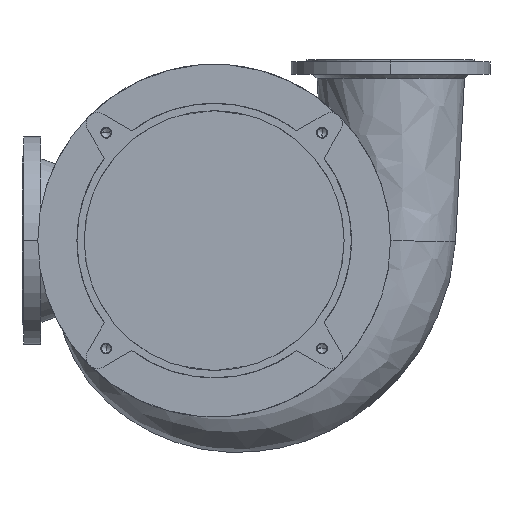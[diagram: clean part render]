
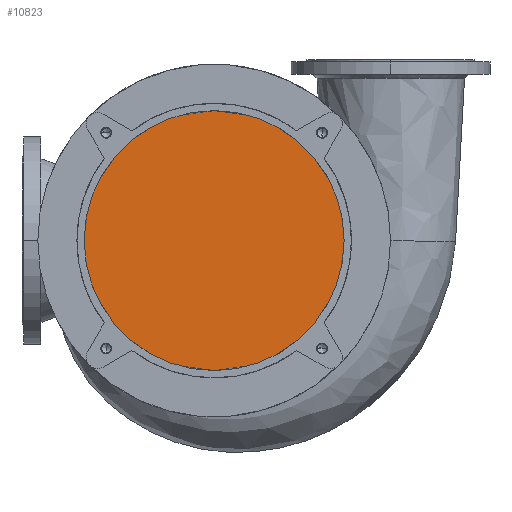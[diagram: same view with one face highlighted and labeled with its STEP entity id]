
A CAD part, front view. The second image highlights one B-rep face of the part: STEP entity #10823.
In plain terms, the highlighted planar face has unit normal (0, -1, 0).
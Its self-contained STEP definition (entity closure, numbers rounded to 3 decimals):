
#4312=CARTESIAN_POINT('',(0.,0.,0.));
#4313=DIRECTION('',(0.,-1.,0.));
#4314=DIRECTION('',(0.,0.,1.));
#4315=AXIS2_PLACEMENT_3D('',#4312,#4313,#4314);
#4317=CARTESIAN_POINT('',(0.,0.,0.));
#4318=DIRECTION('',(0.,-1.,0.));
#4319=DIRECTION('',(0.,0.,-1.));
#4320=AXIS2_PLACEMENT_3D('',#4317,#4318,#4319);
#10640=CARTESIAN_POINT('',(0.,0.,287.5));
#10641=CARTESIAN_POINT('',(0.,0.,-287.5));
#10642=VERTEX_POINT('',#10640);
#10643=VERTEX_POINT('',#10641);
#10812=CARTESIAN_POINT('',(0.,0.,0.));
#10813=DIRECTION('',(0.,1.,0.));
#10814=DIRECTION('',(0.,0.,-1.));
#10815=AXIS2_PLACEMENT_3D('',#10812,#10813,#10814);
#10816=PLANE('',#10815);
#10818=ORIENTED_EDGE('',*,*,#10817,.F.);
#10820=ORIENTED_EDGE('',*,*,#10819,.F.);
#10821=EDGE_LOOP('',(#10818,#10820));
#10822=FACE_OUTER_BOUND('',#10821,.F.);
#10823=ADVANCED_FACE('',(#10822),#10816,.F.);
#4316=CIRCLE('',#4315,287.5);
#4321=CIRCLE('',#4320,287.5);
#10817=EDGE_CURVE('',#10642,#10643,#4316,.T.);
#10819=EDGE_CURVE('',#10643,#10642,#4321,.T.);
